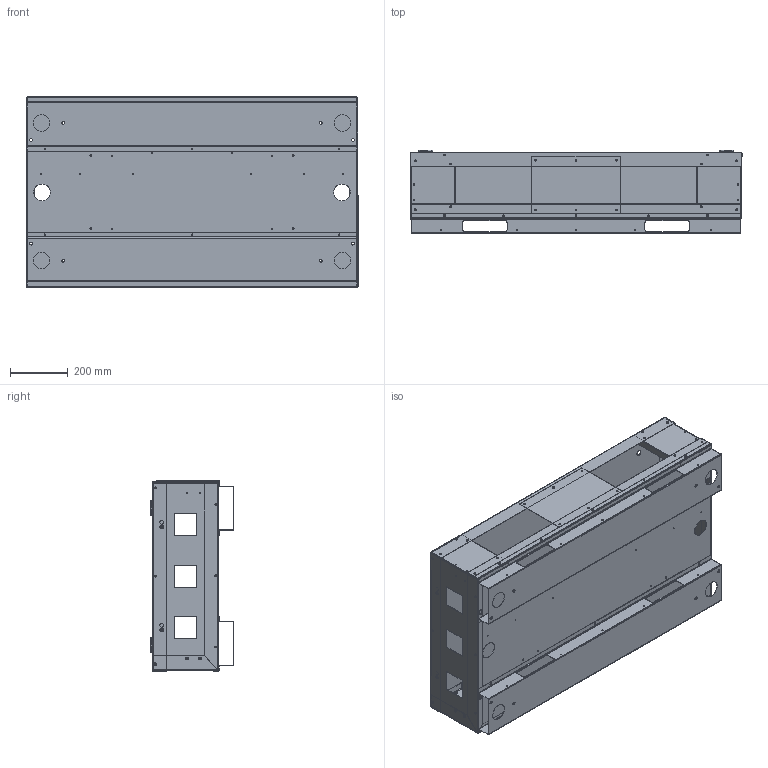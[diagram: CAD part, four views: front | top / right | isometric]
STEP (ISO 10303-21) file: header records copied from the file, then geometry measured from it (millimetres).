
FILE_DESCRIPTION (( 'STEP AP214' ), '1' );
FILE_NAME ('IRP-9 RISER BASE.STEP', '2016-07-14T15:46:03', ( 'BMC' ), ( 'Bard Manufacturing Co., Inc.' ), 'SwSTEP 2.0', 'SolidWorks 2016', '' );
FILE_SCHEMA (( 'AUTOMOTIVE_DESIGN' ));
Length unit declared in the file: inch
Products named in the file (6): IRP-9 RISER BASE; 126-466; 100-804; 106-336; 140-376; 112-511_DefaultSM-FLAT-PATTERN
Assembly tree (7 placements, depth 2):
  IRP-9 RISER BASE
    126-466
    100-804  x2
    106-336
    140-376  x2
    112-511_DefaultSM-FLAT-PATTERN
Bounding box: 1146.05 x 287.27 x 658.32 mm (x, y, z)
Volume: 5037470.3 mm3; surface area: 6530465.7 mm2
Topology: 7 solids, 7 shells, 1044 faces, 2692 edges, 1674 vertices
Faces by surface type: cylinder 608, plane 356, torus 48, bspline 32
Entity records: 24774 total; most frequent: CARTESIAN_POINT 5142, DIRECTION 4228, ORIENTED_EDGE 3824, EDGE_CURVE 1912, AXIS2_PLACEMENT_3D 1660, VERTEX_POINT 1194, EDGE_LOOP 1120, CIRCLE 934
